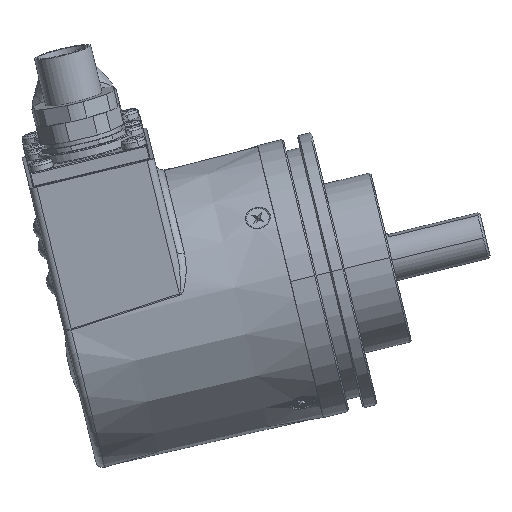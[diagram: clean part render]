
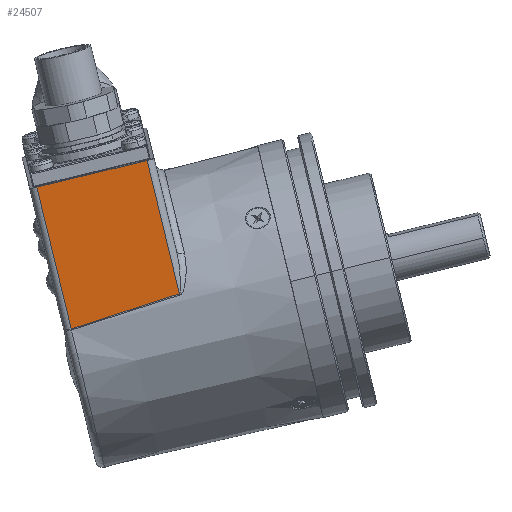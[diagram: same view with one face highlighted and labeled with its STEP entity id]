
A CAD part, left-side view. The second image highlights one B-rep face of the part: STEP entity #24507.
In plain terms, the highlighted planar face has unit normal (-0.995, -0.025, -0.102).
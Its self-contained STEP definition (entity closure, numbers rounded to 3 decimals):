
#6102 = EDGE_LOOP ( 'NONE', ( #37016, #37015, #37014, #37013 ) ) ;
#8151 = DIRECTION ( 'NONE',  ( -0.105, 0.234, 0.967 ) ) ;
#9772 = VERTEX_POINT ( 'NONE', #38264 ) ;
#10025 = VERTEX_POINT ( 'NONE', #38402 ) ;
#14315 = CARTESIAN_POINT ( 'NONE',  ( -10.56, 20.943, 27.224 ) ) ;
#14317 = PLANE ( 'NONE',  #24176 ) ;
#14324 = DIRECTION ( 'NONE',  ( -0.995, -0.025, -0.102 ) ) ;
#14326 = DIRECTION ( 'NONE',  ( 0.105, -0.234, -0.967 ) ) ;
#17582 = EDGE_CURVE ( 'NONE', #9772, #26986, #30239, .T. ) ;
#17594 = EDGE_CURVE ( 'NONE', #9772, #10025, #30243, .T. ) ;
#17595 = EDGE_CURVE ( 'NONE', #10025, #27047, #35250, .T. ) ;
#17597 = EDGE_CURVE ( 'NONE', #27047, #26986, #30247, .T. ) ;
#22006 = CARTESIAN_POINT ( 'NONE',  ( -10.56, 22.401, 26.871 ) ) ;
#22108 = CARTESIAN_POINT ( 'NONE',  ( -7.575, 15.718, -0.737 ) ) ;
#24176 = AXIS2_PLACEMENT_3D ( 'NONE', #14315, #14324, #14326 ) ;
#24507 = ADVANCED_FACE ( 'NONE', ( #29381 ), #14317, .T. ) ;
#26986 = VERTEX_POINT ( 'NONE', #22006 ) ;
#27047 = VERTEX_POINT ( 'NONE', #22108 ) ;
#29381 = FACE_OUTER_BOUND ( 'NONE', #6102, .T. ) ;
#30239 = LINE ( 'NONE', #34012, #30240 ) ;
#30240 = VECTOR ( 'NONE', #34015, 1000. ) ;
#30243 = LINE ( 'NONE', #34032, #30245 ) ;
#30245 = VECTOR ( 'NONE', #34034, 1000. ) ;
#30247 = LINE ( 'NONE', #34035, #30249 ) ;
#30249 = VECTOR ( 'NONE', #8151, 1000. ) ;
#34012 = CARTESIAN_POINT ( 'NONE',  ( -10.56, 20.943, 27.224 ) ) ;
#34015 = DIRECTION ( 'NONE',  ( 0., -0.972, 0.235 ) ) ;
#34028 = CARTESIAN_POINT ( 'NONE',  ( -7.422, 34.414, -6.761 ) ) ;
#34032 = CARTESIAN_POINT ( 'NONE',  ( -7.357, 38.071, -8.28 ) ) ;
#34033 = CARTESIAN_POINT ( 'NONE',  ( -7.383, 38.128, -8.041 ) ) ;
#34034 = DIRECTION ( 'NONE',  ( 0.105, -0.234, -0.967 ) ) ;
#34035 = CARTESIAN_POINT ( 'NONE',  ( -10.56, 22.401, 26.871 ) ) ;
#34036 = CARTESIAN_POINT ( 'NONE',  ( -7.456, 30.685, -5.526 ) ) ;
#34037 = CARTESIAN_POINT ( 'NONE',  ( -7.519, 23.211, -3.1 ) ) ;
#34038 = CARTESIAN_POINT ( 'NONE',  ( -7.548, 19.467, -1.911 ) ) ;
#34039 = CARTESIAN_POINT ( 'NONE',  ( -7.575, 15.718, -0.737 ) ) ;
#35250 = B_SPLINE_CURVE_WITH_KNOTS ( 'NONE', 3,
 ( #34033, #34028, #34036, #34037, #34038, #34039 ),
 .UNSPECIFIED., .F., .F.,
 ( 4, 2, 4 ),
 ( 0., 0.012, 0.024 ),
 .UNSPECIFIED. ) ;
#37013 = ORIENTED_EDGE ( 'NONE', *, *, #17597, .T. ) ;
#37014 = ORIENTED_EDGE ( 'NONE', *, *, #17595, .T. ) ;
#37015 = ORIENTED_EDGE ( 'NONE', *, *, #17594, .T. ) ;
#37016 = ORIENTED_EDGE ( 'NONE', *, *, #17582, .F. ) ;
#38264 = CARTESIAN_POINT ( 'NONE',  ( -10.56, 45.242, 21.342 ) ) ;
#38402 = CARTESIAN_POINT ( 'NONE',  ( -7.383, 38.128, -8.041 ) ) ;
